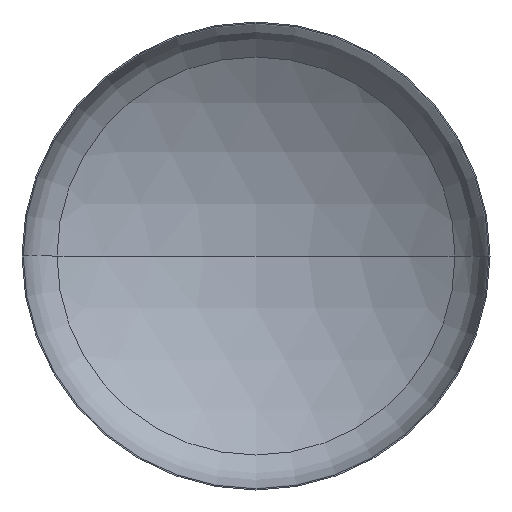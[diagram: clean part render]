
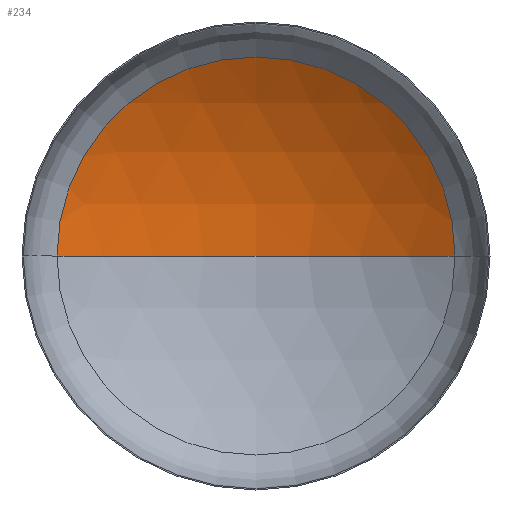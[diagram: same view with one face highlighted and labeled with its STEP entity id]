
A CAD part, front view. The second image highlights one B-rep face of the part: STEP entity #234.
In plain terms, the highlighted spherical face has radius 960 mm.
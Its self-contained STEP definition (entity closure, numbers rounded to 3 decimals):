
#17 = AXIS2_PLACEMENT_3D ( 'NONE', #154, #263, #44 ) ;
#21 = DIRECTION ( 'NONE',  ( 1., 0., 0. ) ) ;
#25 = DIRECTION ( 'NONE',  ( -1., 0., 0. ) ) ;
#31 = DIRECTION ( 'NONE',  ( 0., 0., 1. ) ) ;
#32 = CARTESIAN_POINT ( 'NONE',  ( 0., -636.415, 0. ) ) ;
#36 = AXIS2_PLACEMENT_3D ( 'NONE', #32, #31, #21 ) ;
#37 = AXIS2_PLACEMENT_3D ( 'NONE', #160, #303, #25 ) ;
#40 = AXIS2_PLACEMENT_3D ( 'NONE', #189, #170, #173 ) ;
#44 = DIRECTION ( 'NONE',  ( -1., 0., 0. ) ) ;
#95 = EDGE_CURVE ( 'NONE', #262, #228, #411, .T. ) ;
#97 = EDGE_CURVE ( 'NONE', #401, #262, #269, .T. ) ;
#100 = EDGE_CURVE ( 'NONE', #401, #228, #195, .T. ) ;
#154 = CARTESIAN_POINT ( 'NONE',  ( 0., -636.415, 0. ) ) ;
#155 = CARTESIAN_POINT ( 'NONE',  ( -510.348, 176.693, 0. ) ) ;
#158 = ORIENTED_EDGE ( 'NONE', *, *, #97, .T. ) ;
#160 = CARTESIAN_POINT ( 'NONE',  ( 0., -636.415, 0. ) ) ;
#169 = ORIENTED_EDGE ( 'NONE', *, *, #100, .F. ) ;
#170 = DIRECTION ( 'NONE',  ( 0., -1., 0. ) ) ;
#173 = DIRECTION ( 'NONE',  ( 1., 0., 0. ) ) ;
#189 = CARTESIAN_POINT ( 'NONE',  ( 0., 176.693, 0. ) ) ;
#195 = CIRCLE ( 'NONE', #36, 960. ) ;
#199 = CARTESIAN_POINT ( 'NONE',  ( 0., 323.585, 0. ) ) ;
#228 = VERTEX_POINT ( 'NONE', #155 ) ;
#233 = EDGE_LOOP ( 'NONE', ( #169, #158, #369 ) ) ;
#234 = ADVANCED_FACE ( 'NONE', ( #320 ), #388, .F. ) ;
#262 = VERTEX_POINT ( 'NONE', #408 ) ;
#263 = DIRECTION ( 'NONE',  ( 0., 0., -1. ) ) ;
#269 = CIRCLE ( 'NONE', #37, 960. ) ;
#303 = DIRECTION ( 'NONE',  ( 0., 0., -1. ) ) ;
#320 = FACE_OUTER_BOUND ( 'NONE', #233, .T. ) ;
#369 = ORIENTED_EDGE ( 'NONE', *, *, #95, .T. ) ;
#388 = SPHERICAL_SURFACE ( 'NONE', #17, 960. ) ;
#401 = VERTEX_POINT ( 'NONE', #199 ) ;
#408 = CARTESIAN_POINT ( 'NONE',  ( 510.348, 176.693, 0. ) ) ;
#411 = CIRCLE ( 'NONE', #40, 510.348 ) ;
